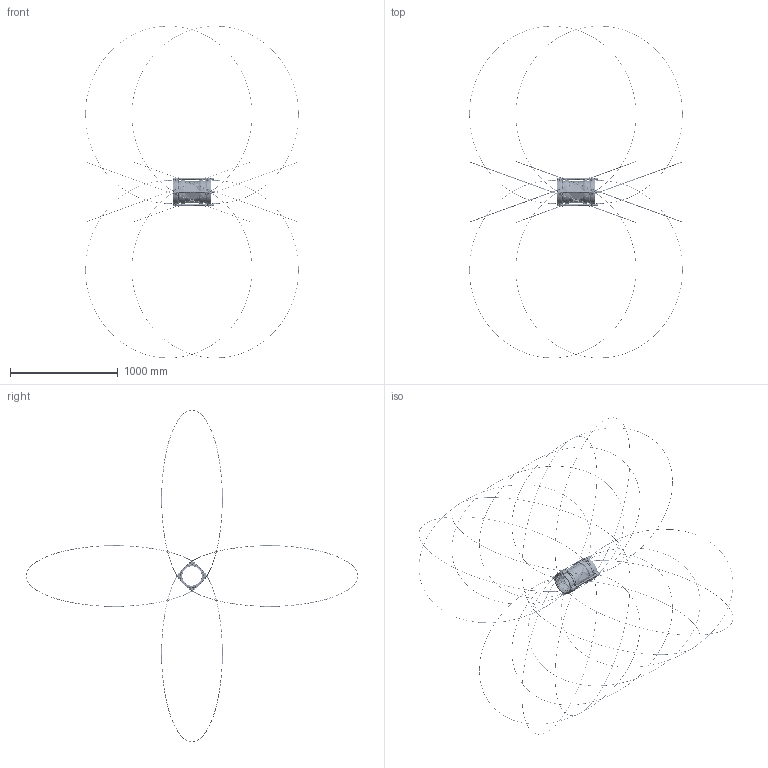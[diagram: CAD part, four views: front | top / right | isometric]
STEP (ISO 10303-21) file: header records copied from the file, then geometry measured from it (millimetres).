
FILE_DESCRIPTION((''),'2;1');
FILE_NAME('13382_8','2014-12-10T',('rburgess'),('Viking Johnson'),'PRO/ENGINEER BY PARAMETRIC TECHNOLOGY CORPORATION, 2006020','PRO/ENGINEER BY PARAMETRIC TECHNOLOGY CORPORATION, 2006020','');
FILE_SCHEMA(('CONFIG_CONTROL_DESIGN'));
Products named in the file (1): 13382_8
Bounding box: 1986.5 x 3087.99 x 3087.99 mm (x, y, z)
Surface area: 2577291.5 mm2 (no closed solid volume)
Topology: 0 solids, 0 shells, 6280 faces, 33550 edges, 32938 vertices
Faces by surface type: bspline 5434, torus 734, sphere 112
Entity records: 463860 total; most frequent: CARTESIAN_POINT 175232, DIRECTION 44887, TRIMMED_CURVE 39690, VECTOR 36185, LINE 36185, DEFINITIONAL_REPRESENTATION 32222, PCURVE 32222, COMPOSITE_CURVE_SEGMENT 32222
